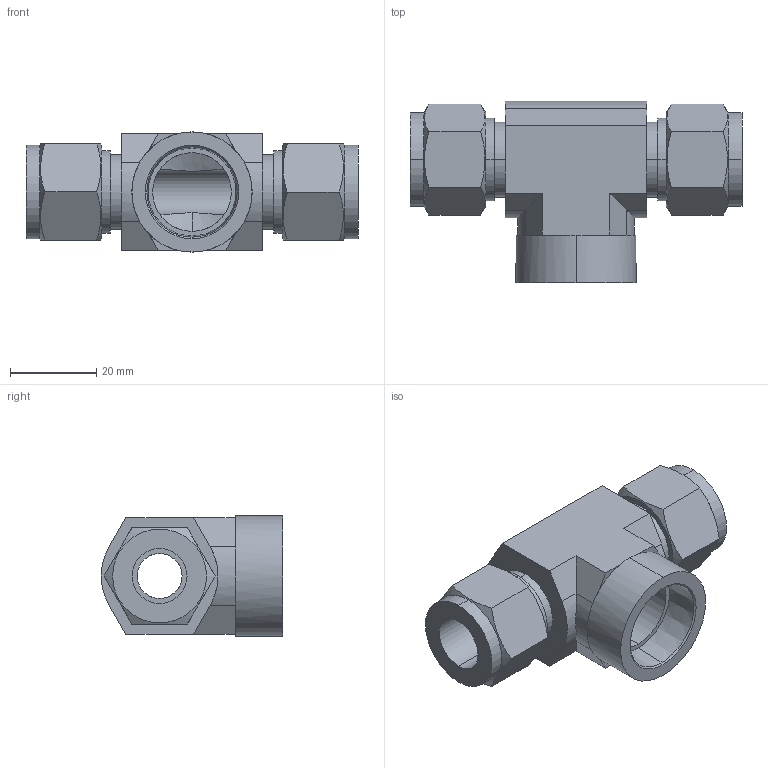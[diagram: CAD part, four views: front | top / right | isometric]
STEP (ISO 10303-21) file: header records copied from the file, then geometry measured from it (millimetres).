
FILE_DESCRIPTION (( 'STEP AP203' ), '1' );
FILE_NAME ('DTH08-08 SS.STEP', '2009-10-26T05:48:35', ( ' ' ), ( '' ), 'SwSTEP 2.0', 'SolidWorks 2008', '' );
FILE_SCHEMA (( 'CONFIG_CONTROL_DESIGN' ));
Length unit declared in the file: millimetre
Products named in the file (1): DTH08-08 SS
Bounding box: 76.8 x 42 x 27.8 mm (x, y, z)
Volume: 31343 mm3; surface area: 13380.5 mm2
Topology: 1 solids, 1 shells, 87 faces, 208 edges, 131 vertices
Faces by surface type: plane 44, cylinder 28, cone 15
Entity records: 2912 total; most frequent: CARTESIAN_POINT 826, ORIENTED_EDGE 416, DIRECTION 415, EDGE_CURVE 208, AXIS2_PLACEMENT_3D 158, VERTEX_POINT 131, EDGE_LOOP 99, VECTOR 99
